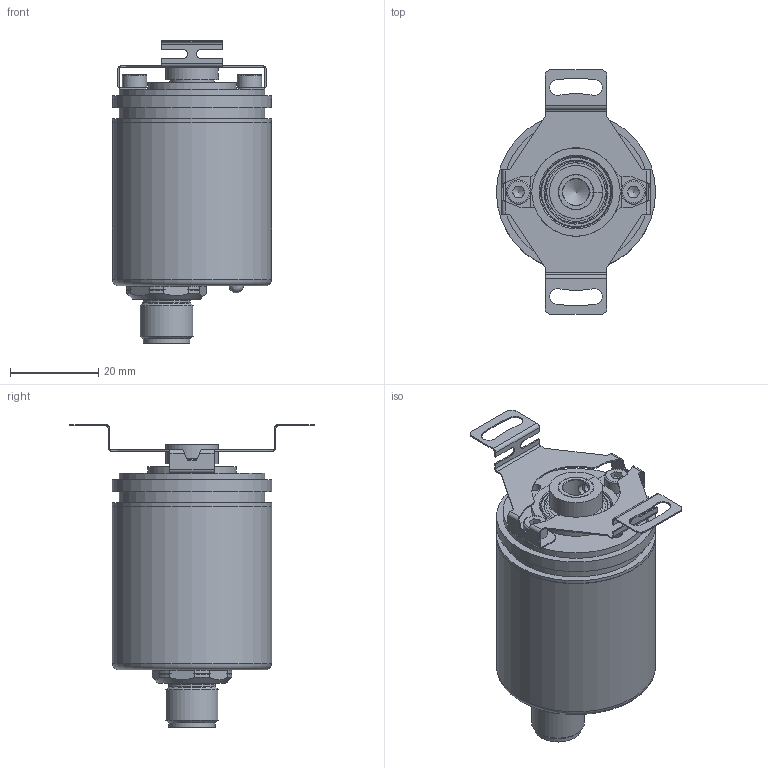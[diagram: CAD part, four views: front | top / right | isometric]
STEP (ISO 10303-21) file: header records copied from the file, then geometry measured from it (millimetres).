
FILE_DESCRIPTION (( 'STEP AP203' ), '1' );
FILE_NAME ('HTx36E H_axial.STEP', '2021-06-09T16:43:33', ( '' ), ( '' ), 'SwSTEP 2.0', 'SolidWorks 2019', '' );
FILE_SCHEMA (( 'CONFIG_CONTROL_DESIGN' ));
Length unit declared in the file: millimetre
Products named in the file (1): HTx36E H_axial
Bounding box: 36 x 55.4 x 68.5 mm (x, y, z)
Volume: 19452.2 mm3; surface area: 26734.4 mm2
Topology: 36 solids, 37 shells, 635 faces, 1501 edges, 937 vertices
Faces by surface type: plane 251, cylinder 168, bspline 84, cone 67, torus 38, sphere 27
Full cylindrical faces by diameter (mm): 0.56 x8, 0.8 x8, 2.459 x7, 2.5 x1, 2.6 x1, 3 x2, 3.4 x1, 3.5 x2, 5.5 x2, 6 x1, 7.6 x1, 8 x4, 8.1 x1, 8.3 x1, 9.5 x8, 9.85 x1, 10 x3, 10.1 x4, 10.5 x1, 10.65 x1, 12 x2, 12.15 x1, 13.4 x1, 13.5 x1, 14 x4, 14.5 x8, 15.2 x1, 15.85 x1, 16 x6, 20 x1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
Entity records: 18645 total; most frequent: CARTESIAN_POINT 6071, DIRECTION 2482, ORIENTED_EDGE 2312, EDGE_CURVE 1156, AXIS2_PLACEMENT_3D 976, EDGE_LOOP 906, VERTEX_POINT 832, FACE_OUTER_BOUND 764
